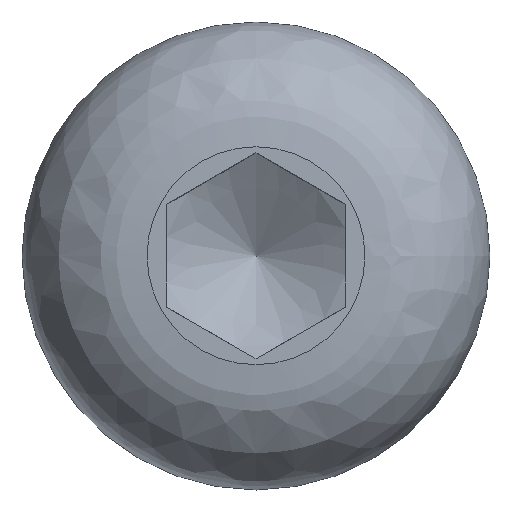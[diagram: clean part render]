
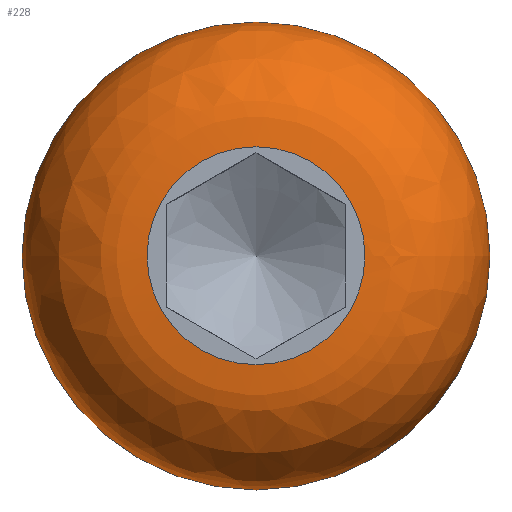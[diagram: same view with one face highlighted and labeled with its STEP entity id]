
A CAD part, top view. The second image highlights one B-rep face of the part: STEP entity #228.
In plain terms, the highlighted free-form (B-spline) face has degree [2, 2] with [3, 9] control points.
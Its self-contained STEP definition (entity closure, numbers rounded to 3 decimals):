
#13=(
BOUNDED_SURFACE()
B_SPLINE_SURFACE(2,2,((#386,#387,#388,#389,#390,#391,#392,#393,#394),(#395,
#396,#397,#398,#399,#400,#401,#402,#403),(#404,#405,#406,#407,#408,#409,
#410,#411,#412)),.UNSPECIFIED.,.F.,.T.,.F.)
B_SPLINE_SURFACE_WITH_KNOTS((3,3),(3,2,2,2,3),(-1.571,0.),
(-3.142,-1.571,0.,1.571,3.142),
 .UNSPECIFIED.)
GEOMETRIC_REPRESENTATION_ITEM()
RATIONAL_B_SPLINE_SURFACE(((1.,0.707,1.,0.707,1.,
0.707,1.,0.707,1.),(0.707,0.5,0.707,
0.5,0.707,0.5,0.707,0.5,0.707),(1.,
0.707,1.,0.707,1.,0.707,1.,0.707,
1.)))
REPRESENTATION_ITEM($)
SURFACE()
);
#46=(
BOUNDED_CURVE()
B_SPLINE_CURVE(2,(#416,#417,#418),.UNSPECIFIED.,.F.,.F.)
B_SPLINE_CURVE_WITH_KNOTS((3,3),(0.,1.571),
 .UNSPECIFIED.)
CURVE()
GEOMETRIC_REPRESENTATION_ITEM()
RATIONAL_B_SPLINE_CURVE((1.,0.707,1.))
REPRESENTATION_ITEM($)
);
#77=FACE_OUTER_BOUND($,#97,.T.);
#97=EDGE_LOOP($,(#205,#206,#207,#208,#209,#210));
#104=CIRCLE($,#247,2.445);
#105=CIRCLE($,#248,2.445);
#107=CIRCLE($,#253,5.25);
#108=CIRCLE($,#254,5.25);
#125=VERTEX_POINT($,#377);
#126=VERTEX_POINT($,#378);
#128=VERTEX_POINT($,#413);
#129=VERTEX_POINT($,#414);
#152=EDGE_CURVE($,#125,#126,#104,.T.);
#153=EDGE_CURVE($,#126,#125,#105,.T.);
#155=EDGE_CURVE($,#128,#129,#107,.T.);
#156=EDGE_CURVE($,#129,#126,#46,.T.);
#157=EDGE_CURVE($,#129,#128,#108,.T.);
#205=ORIENTED_EDGE($,*,*,#155,.T.);
#206=ORIENTED_EDGE($,*,*,#156,.T.);
#207=ORIENTED_EDGE($,*,*,#153,.T.);
#208=ORIENTED_EDGE($,*,*,#152,.T.);
#209=ORIENTED_EDGE($,*,*,#156,.F.);
#210=ORIENTED_EDGE($,*,*,#157,.T.);
#228=ADVANCED_FACE($,(#77),#13,.F.);
#247=AXIS2_PLACEMENT_3D($,#379,#298,#299);
#248=AXIS2_PLACEMENT_3D($,#380,#300,#301);
#253=AXIS2_PLACEMENT_3D($,#415,#310,#311);
#254=AXIS2_PLACEMENT_3D($,#419,#312,#313);
#298=DIRECTION('center_axis',(0.,0.,-1.));
#299=DIRECTION('ref_axis',(1.,0.,0.));
#300=DIRECTION('center_axis',(0.,0.,-1.));
#301=DIRECTION('ref_axis',(1.,0.,0.));
#310=DIRECTION('center_axis',(0.,0.,1.));
#311=DIRECTION('ref_axis',(1.,0.,0.));
#312=DIRECTION('center_axis',(0.,0.,1.));
#313=DIRECTION('ref_axis',(1.,0.,0.));
#377=CARTESIAN_POINT('',(-2.445,0.,3.3));
#378=CARTESIAN_POINT('',(2.445,0.,3.3));
#379=CARTESIAN_POINT('Origin',(0.,0.,3.3));
#380=CARTESIAN_POINT('Origin',(0.,0.,3.3));
#386=CARTESIAN_POINT('Ctrl Pts',(2.445,0.,3.3));
#387=CARTESIAN_POINT('Ctrl Pts',(2.445,-2.445,3.3));
#388=CARTESIAN_POINT('Ctrl Pts',(0.,-2.445,3.3));
#389=CARTESIAN_POINT('Ctrl Pts',(-2.445,-2.445,3.3));
#390=CARTESIAN_POINT('Ctrl Pts',(-2.445,0.,3.3));
#391=CARTESIAN_POINT('Ctrl Pts',(-2.445,2.445,3.3));
#392=CARTESIAN_POINT('Ctrl Pts',(0.,2.445,3.3));
#393=CARTESIAN_POINT('Ctrl Pts',(2.445,2.445,3.3));
#394=CARTESIAN_POINT('Ctrl Pts',(2.445,0.,3.3));
#395=CARTESIAN_POINT('Ctrl Pts',(5.25,0.,3.3));
#396=CARTESIAN_POINT('Ctrl Pts',(5.25,-5.25,3.3));
#397=CARTESIAN_POINT('Ctrl Pts',(0.,-5.25,3.3));
#398=CARTESIAN_POINT('Ctrl Pts',(-5.25,-5.25,3.3));
#399=CARTESIAN_POINT('Ctrl Pts',(-5.25,0.,3.3));
#400=CARTESIAN_POINT('Ctrl Pts',(-5.25,5.25,3.3));
#401=CARTESIAN_POINT('Ctrl Pts',(0.,5.25,3.3));
#402=CARTESIAN_POINT('Ctrl Pts',(5.25,5.25,3.3));
#403=CARTESIAN_POINT('Ctrl Pts',(5.25,0.,3.3));
#404=CARTESIAN_POINT('Ctrl Pts',(5.25,0.,0.495));
#405=CARTESIAN_POINT('Ctrl Pts',(5.25,-5.25,0.495));
#406=CARTESIAN_POINT('Ctrl Pts',(0.,-5.25,0.495));
#407=CARTESIAN_POINT('Ctrl Pts',(-5.25,-5.25,0.495));
#408=CARTESIAN_POINT('Ctrl Pts',(-5.25,0.,0.495));
#409=CARTESIAN_POINT('Ctrl Pts',(-5.25,5.25,0.495));
#410=CARTESIAN_POINT('Ctrl Pts',(0.,5.25,0.495));
#411=CARTESIAN_POINT('Ctrl Pts',(5.25,5.25,0.495));
#412=CARTESIAN_POINT('Ctrl Pts',(5.25,0.,0.495));
#413=CARTESIAN_POINT('',(-5.25,0.,0.495));
#414=CARTESIAN_POINT('',(5.25,0.,0.495));
#415=CARTESIAN_POINT('Origin',(0.,0.,0.495));
#416=CARTESIAN_POINT('Ctrl Pts',(5.25,0.,0.495));
#417=CARTESIAN_POINT('Ctrl Pts',(5.25,0.,3.3));
#418=CARTESIAN_POINT('Ctrl Pts',(2.445,0.,3.3));
#419=CARTESIAN_POINT('Origin',(0.,0.,0.495));
